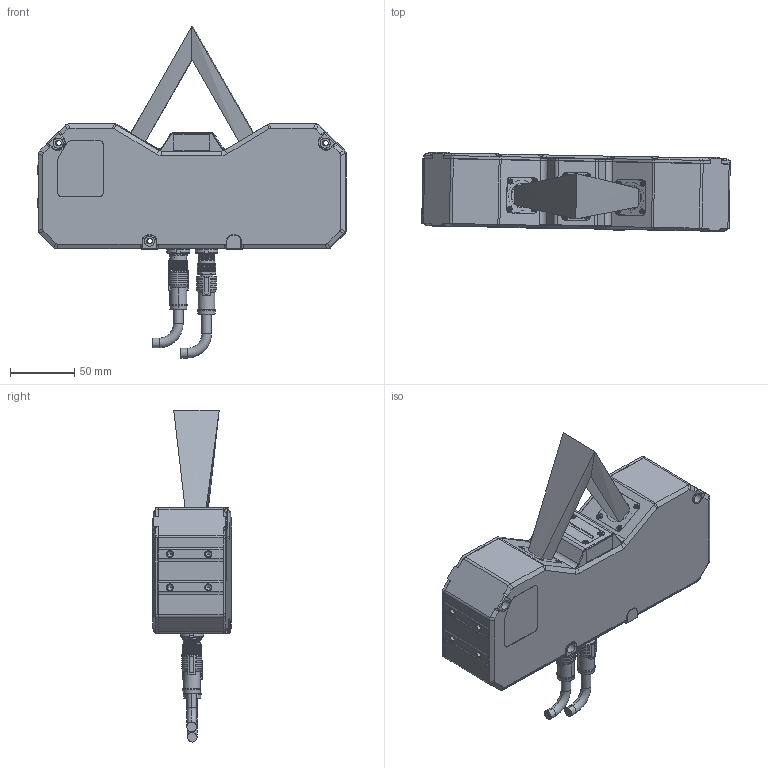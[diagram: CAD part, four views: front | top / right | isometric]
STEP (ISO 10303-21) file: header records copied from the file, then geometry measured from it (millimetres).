
FILE_DESCRIPTION((''),'2;1');
FILE_NAME('MV-DP2060-01D-V2--0001','2026-06-15T19:56:50',('liudeting'),(''),'CREO PARAMETRIC BY PTC INC, 2020044','CREO PARAMETRIC BY PTC INC, 2020044','');
FILE_SCHEMA(('AUTOMOTIVE_DESIGN { 1 0 10303 214 1 1 1 1 }'));
Products named in the file (1): MV-DP2060-01D-V2--0001
Bounding box: 240.95 x 62.17 x 259.25 mm (x, y, z)
Volume: 3672.3 mm3; surface area: 110657.4 mm2
Topology: 2 solids, 79 shells, 2170 faces, 6620 edges, 4451 vertices
Faces by surface type: plane 1165, cylinder 574, cone 215, torus 116, bspline 98, extrusion 2
Entity records: 118131 total; most frequent: CARTESIAN_POINT 60768, ORIENTED_EDGE 11767, DIRECTION 11448, EDGE_CURVE 6582, VERTEX_POINT 4451, AXIS2_PLACEMENT_3D 4098, VECTOR 3252, LINE 3250
